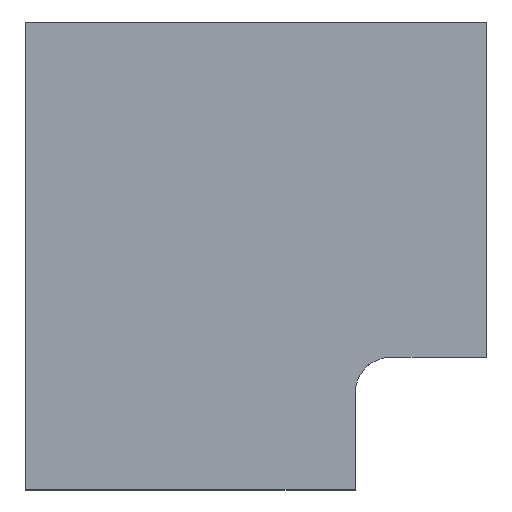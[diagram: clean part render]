
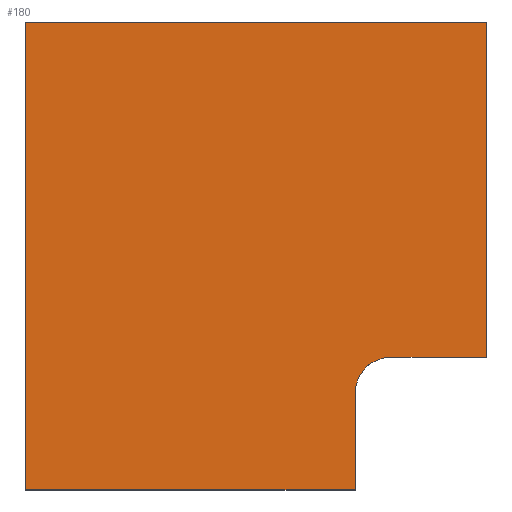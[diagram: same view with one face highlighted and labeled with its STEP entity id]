
A CAD part, top view. The second image highlights one B-rep face of the part: STEP entity #180.
In plain terms, the highlighted planar face has unit normal (0, 0, 1).
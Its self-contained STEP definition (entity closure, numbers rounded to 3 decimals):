
#14=DIRECTION('',(0.,1.,0.));
#15=VECTOR('',#14,85.4);
#16=CARTESIAN_POINT('',(0.,0.,0.6));
#17=LINE('',#16,#15);
#30=DIRECTION('',(-1.,0.,0.));
#31=VECTOR('',#30,17.5);
#32=CARTESIAN_POINT('',(84.2,24.2,0.6));
#33=LINE('',#32,#31);
#34=CARTESIAN_POINT('',(66.7,17.7,0.6));
#35=DIRECTION('',(0.,0.,1.));
#36=DIRECTION('',(0.,1.,0.));
#37=AXIS2_PLACEMENT_3D('',#34,#35,#36);
#39=DIRECTION('',(0.,1.,0.));
#40=VECTOR('',#39,17.7);
#41=CARTESIAN_POINT('',(60.2,0.,0.6));
#42=LINE('',#41,#40);
#43=DIRECTION('',(1.,0.,0.));
#44=VECTOR('',#43,60.2);
#45=CARTESIAN_POINT('',(0.,0.,0.6));
#46=LINE('',#45,#44);
#51=DIRECTION('',(0.,1.,0.));
#52=VECTOR('',#51,61.2);
#53=CARTESIAN_POINT('',(84.2,24.2,0.6));
#54=LINE('',#53,#52);
#63=DIRECTION('',(1.,0.,0.));
#64=VECTOR('',#63,84.2);
#65=CARTESIAN_POINT('',(0.,85.4,0.6));
#66=LINE('',#65,#64);
#89=CARTESIAN_POINT('',(0.,0.,0.6));
#91=VERTEX_POINT('',#89);
#92=CARTESIAN_POINT('',(0.,85.4,0.6));
#93=VERTEX_POINT('',#92);
#96=CARTESIAN_POINT('',(84.2,85.4,0.6));
#98=VERTEX_POINT('',#96);
#101=CARTESIAN_POINT('',(84.2,24.2,0.6));
#103=VERTEX_POINT('',#101);
#105=CARTESIAN_POINT('',(60.2,0.,0.6));
#107=VERTEX_POINT('',#105);
#108=CARTESIAN_POINT('',(66.7,24.2,0.6));
#109=VERTEX_POINT('',#108);
#110=CARTESIAN_POINT('',(60.2,17.7,0.6));
#111=VERTEX_POINT('',#110);
#162=CARTESIAN_POINT('',(0.,0.,0.6));
#163=DIRECTION('',(0.,0.,1.));
#164=DIRECTION('',(0.,1.,0.));
#165=AXIS2_PLACEMENT_3D('',#162,#163,#164);
#166=PLANE('',#165);
#168=ORIENTED_EDGE('',*,*,#167,.T.);
#170=ORIENTED_EDGE('',*,*,#169,.T.);
#171=ORIENTED_EDGE('',*,*,#153,.F.);
#172=ORIENTED_EDGE('',*,*,#142,.F.);
#173=ORIENTED_EDGE('',*,*,#127,.T.);
#175=ORIENTED_EDGE('',*,*,#174,.T.);
#177=ORIENTED_EDGE('',*,*,#176,.F.);
#178=EDGE_LOOP('',(#168,#170,#171,#172,#173,#175,#177));
#179=FACE_OUTER_BOUND('',#178,.F.);
#38=CIRCLE('',#37,6.5);
#127=EDGE_CURVE('',#91,#93,#17,.T.);
#142=EDGE_CURVE('',#91,#107,#46,.T.);
#153=EDGE_CURVE('',#107,#111,#42,.T.);
#167=EDGE_CURVE('',#103,#109,#33,.T.);
#169=EDGE_CURVE('',#109,#111,#38,.T.);
#174=EDGE_CURVE('',#93,#98,#66,.T.);
#176=EDGE_CURVE('',#103,#98,#54,.T.);
#180=ADVANCED_FACE('',(#179),#166,.T.);
